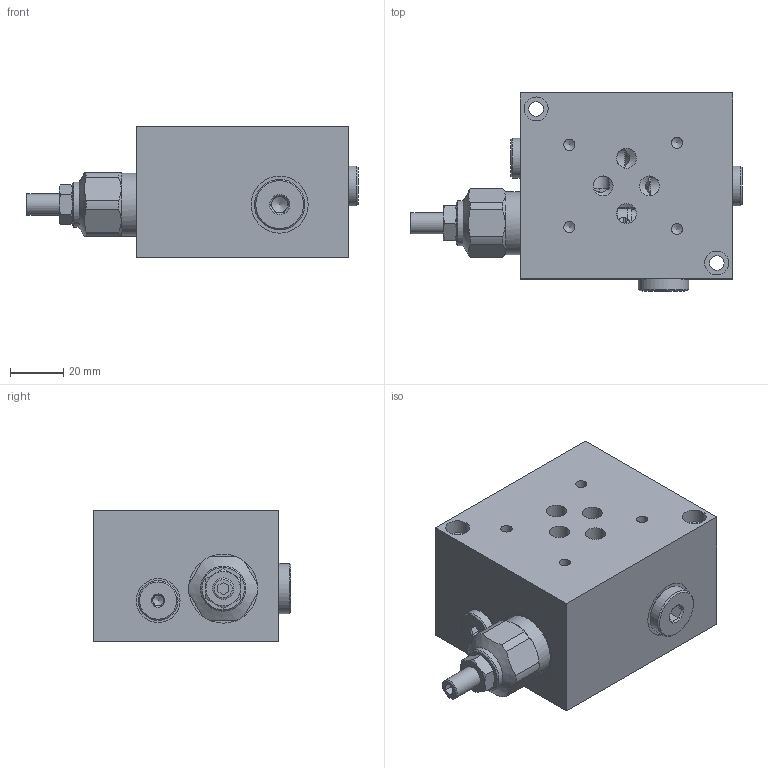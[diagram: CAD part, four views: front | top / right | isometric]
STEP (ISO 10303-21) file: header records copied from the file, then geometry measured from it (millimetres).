
FILE_DESCRIPTION (( 'STEP AP214' ), '1' );
FILE_NAME ('BS3C.STEP', '2020-06-22T11:55:13', ( '' ), ( '' ), 'SwSTEP 2.0', 'SolidWorks 2017', '' );
FILE_SCHEMA (( 'AUTOMOTIVE_DESIGN' ));
Length unit declared in the file: millimetre
Products named in the file (1): BS3C
Bounding box: 125 x 74.5 x 49.5 mm (x, y, z)
Volume: 252603.6 mm3; surface area: 51606.2 mm2
Topology: 9 solids, 15 shells, 340 faces, 756 edges, 466 vertices
Faces by surface type: plane 135, cone 92, cylinder 91, torus 13, bspline 9
Full cylindrical faces by diameter (mm): 4 x1, 4.2 x4, 4.5 x4, 5.5 x3, 6.8 x2, 7 x3, 7.5 x4, 7.8 x1, 8 x2, 8.4 x4, 8.75 x2, 9 x2, 9.728 x2, 10 x1, 10.551 x2, 10.886 x2, 11.4 x2, 11.6 x1, 11.8 x1, 12.5 x1, 13 x4, 13.157 x1, 13.5 x1, 13.986 x1, 14 x2, 14.476 x1, 14.5 x1, 14.6 x1, 15 x2, 15.25 x4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
Entity records: 13663 total; most frequent: CARTESIAN_POINT 3223, DIRECTION 1378, ORIENTED_EDGE 1092, AXIS2_PLACEMENT_3D 620, EDGE_LOOP 572, EDGE_CURVE 546, FACE_OUTER_BOUND 440, VERTEX_POINT 424
